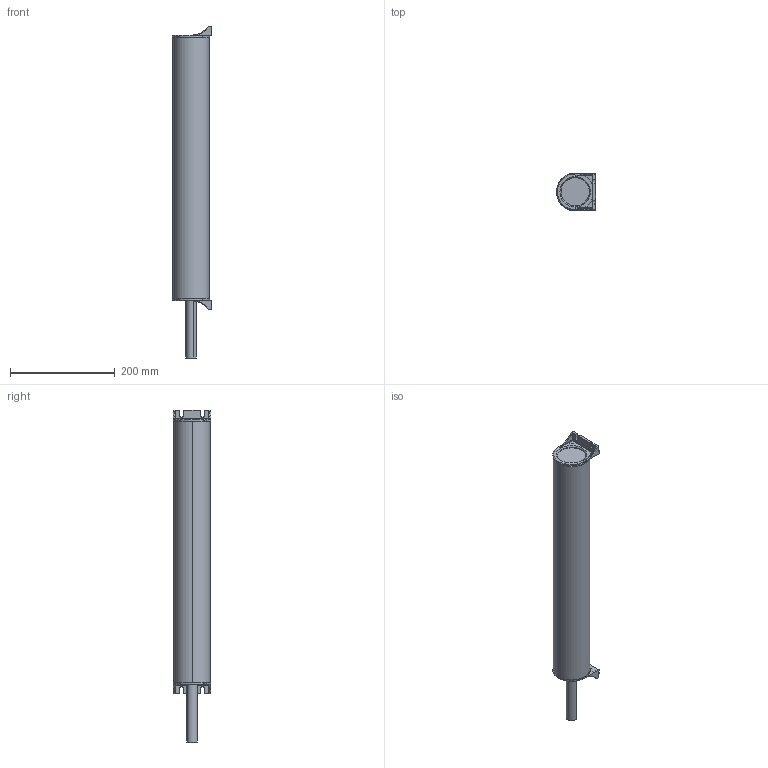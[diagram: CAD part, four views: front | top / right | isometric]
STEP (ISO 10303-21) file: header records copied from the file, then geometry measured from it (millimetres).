
FILE_DESCRIPTION((''),'2;1');
FILE_NAME('TFL-18','2016-09-27T',('ABS'),(''),'PRO/ENGINEER BY PARAMETRIC TECHNOLOGY CORPORATION, 2012360','PRO/ENGINEER BY PARAMETRIC TECHNOLOGY CORPORATION, 2012360','');
FILE_SCHEMA(('CONFIG_CONTROL_DESIGN'));
Length unit declared in the file: inch
Products named in the file (1): TFL-18
Bounding box: 74.65 x 71.3 x 635.21 mm (x, y, z)
Volume: 688511 mm3; surface area: 259986.1 mm2
Topology: 1 solids, 17 shells, 818 faces, 2244 edges, 1440 vertices
Faces by surface type: plane 301, cylinder 218, cone 100, torus 87, sphere 58, bspline 54
Entity records: 29820 total; most frequent: CARTESIAN_POINT 9954, ORIENTED_EDGE 4422, DIRECTION 3875, EDGE_CURVE 2211, AXIS2_PLACEMENT_3D 1520, VERTEX_POINT 1440, EDGE_LOOP 845, VECTOR 835
